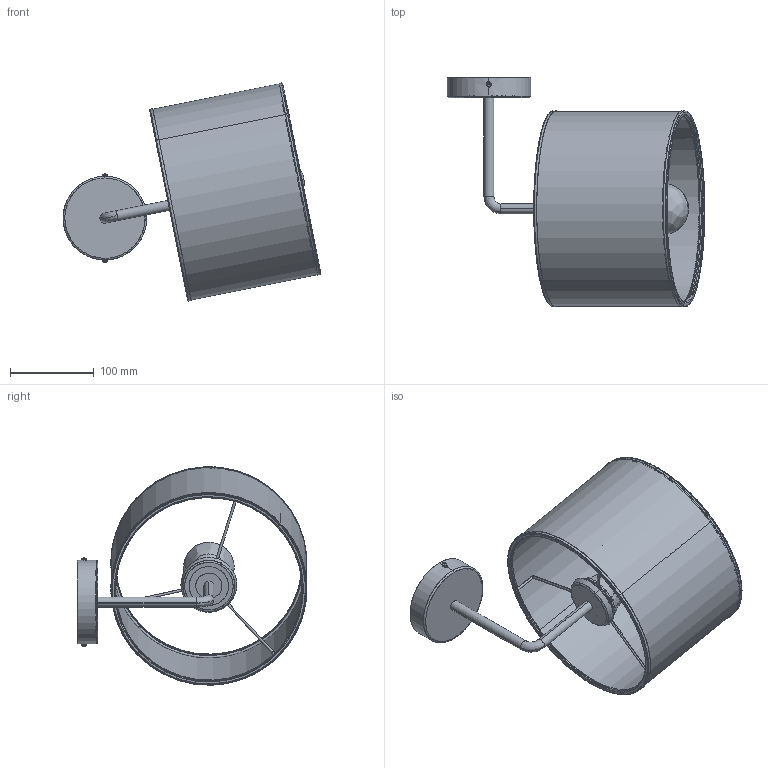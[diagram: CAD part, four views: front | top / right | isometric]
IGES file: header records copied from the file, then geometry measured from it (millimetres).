
Start section: SolidWorks IGES file using analytic representation for surfaces
Global section: file name: D:\nowodvorski\ALICE RODZINA\ALICE_B_9084_9082_9083_9078_9081_9080_WWW\ALICE_B_9084_9082_9083_9078_9081_9080.IGS; native system: SolidWorks 2017; preprocessor: SolidWorks 2017; author: Togambi; date: 200807.145154; units: millimetre
Bounding box: 308.28 x 274.72 x 261.24 mm (x, y, z)
Surface area: 405239.8 mm2 (no closed solid volume)
Topology: 0 solids, 0 shells, 440 faces, 6070 edges, 6046 vertices
Faces by surface type: revolution 248, bspline 192
